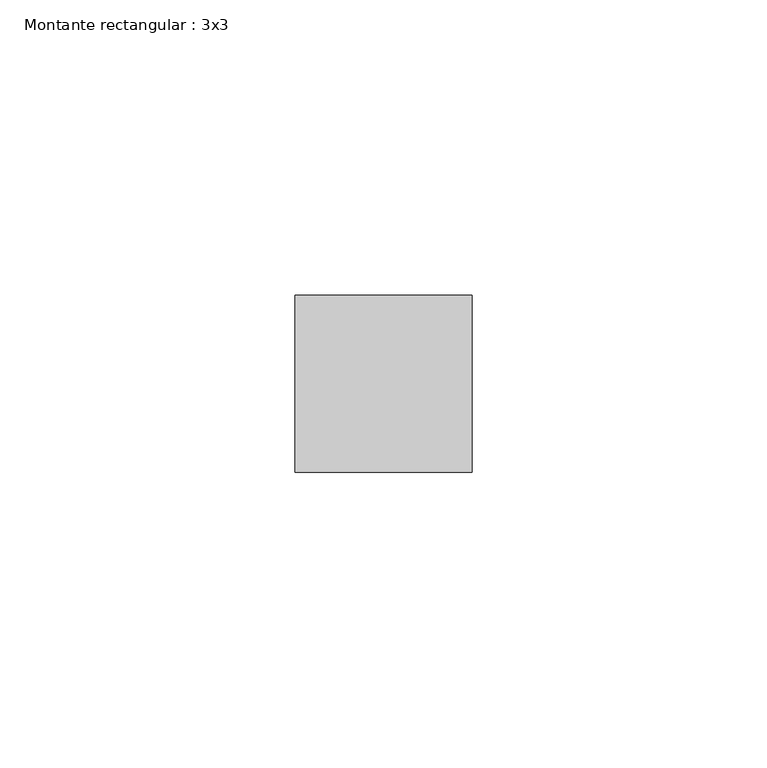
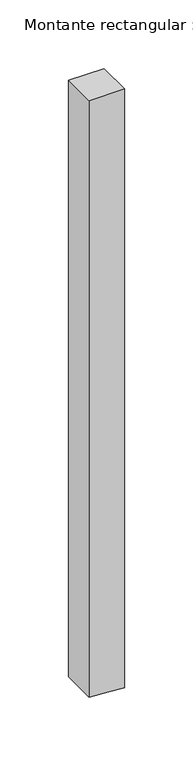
"""IFC4 building model written with IfcOpenShell, lengths in millimetres: member geometry, Montante rectangular : 3x3."""

from ifc_helpers import new_model, si_unit, frame, origin, place, context, project, spatial, polyline, outline, extrude, source, transform, mapped, element, save


def montante_rectangular_3x3_f926777b(model_context):
    return source(origin(), model_context, "Body", "SweptSolid", [
        extrude(outline(polyline([(0.0, 15.0), (0.0, -15.0), (-531.3216314, -15.0), (-532.5775066, 2.1863855), (-533.5138466, 15.0), (0.0, 15.0)])), frame((0.0, -15.0, 0.0), z_axis=(0.0, 1.0, 0.0), x_axis=(0.0, 0.0, 1.0)), (0.0, 0.0, 1.0), 30.0),
    ])


if __name__ == "__main__":
    model = new_model("IFC4")
    model_context = context("Model", 3, world=origin())
    ifc_project = project(units=[si_unit("LENGTHUNIT", "METRE", prefix="MILLI")], contexts=[model_context])
    site = spatial("IfcSite", under=ifc_project)
    building = spatial("IfcBuilding", under=site)
    placement = place(None, origin())
    montante_rectangular_3x3_shape = montante_rectangular_3x3_f926777b(model_context)
    element("IfcMember", 1, ObjectType="Montante rectangular : 3x3", at=placement, inside=building, context=model_context, shape_type="MappedRepresentation", body=[
        mapped(montante_rectangular_3x3_shape, transform((0.0, 0.0, 0.0), x_axis=(1.0, 0.0, 0.0), y_axis=(0.0, 1.0, 0.0), z_axis=(0.0, 0.0, 1.0))),
    ])
    save(model, "model.ifc")
